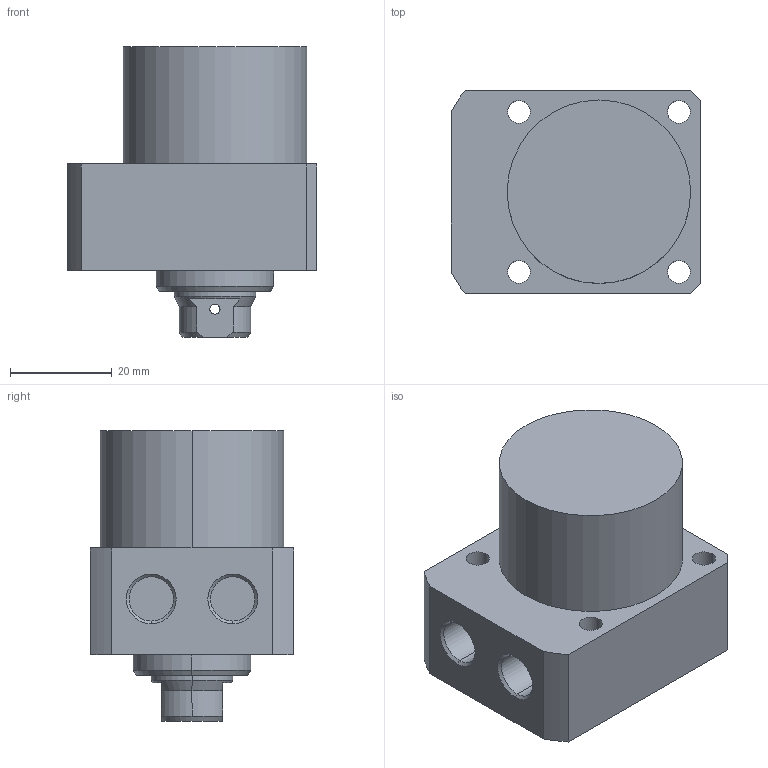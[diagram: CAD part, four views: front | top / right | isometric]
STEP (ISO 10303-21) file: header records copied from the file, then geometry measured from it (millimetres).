
FILE_DESCRIPTION (( 'STEP AP203' ), '1' );
FILE_NAME ('CLLR-036CB-(1-14).STEP', '2019-12-20T00:16:50', ( '' ), ( '' ), 'SwSTEP 2.0', 'SolidWorks 2015', '' );
FILE_SCHEMA (( 'CONFIG_CONTROL_DESIGN' ));
Length unit declared in the file: millimetre
Products named in the file (1): CLLR-036CB-(1-14)
Bounding box: 49 x 40 x 57 mm (x, y, z)
Volume: 64092.5 mm3; surface area: 12713.6 mm2
Topology: 1 solids, 1 shells, 67 faces, 161 edges, 102 vertices
Faces by surface type: cylinder 33, plane 19, cone 15
Entity records: 2131 total; most frequent: CARTESIAN_POINT 429, DIRECTION 360, ORIENTED_EDGE 318, EDGE_CURVE 159, AXIS2_PLACEMENT_3D 145, VERTEX_POINT 102, EDGE_LOOP 87, CIRCLE 77
